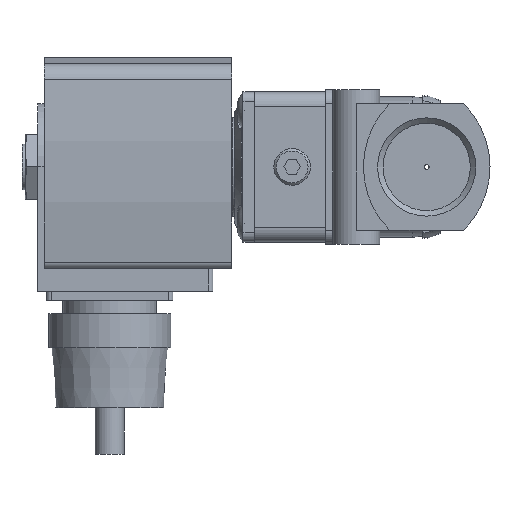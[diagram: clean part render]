
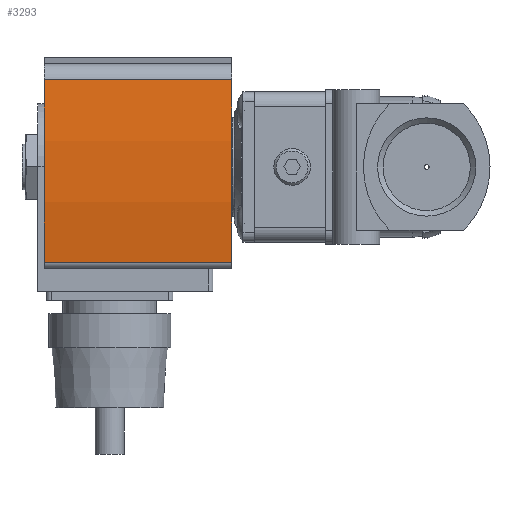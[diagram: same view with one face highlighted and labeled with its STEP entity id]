
A CAD part, left-side view. The second image highlights one B-rep face of the part: STEP entity #3293.
In plain terms, the highlighted cylindrical face has radius 130 mm (diameter 260 mm), a partial arc.
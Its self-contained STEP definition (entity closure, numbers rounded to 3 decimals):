
#110=CYLINDRICAL_SURFACE('',#4064,130.);
#349=LINE('',#6079,#573);
#350=LINE('',#6083,#574);
#573=VECTOR('',#4988,1000.);
#574=VECTOR('',#4993,1000.);
#1333=ORIENTED_EDGE('',*,*,#1899,.T.);
#1334=ORIENTED_EDGE('',*,*,#1900,.F.);
#1335=ORIENTED_EDGE('',*,*,#1888,.F.);
#1336=ORIENTED_EDGE('',*,*,#1898,.T.);
#1888=EDGE_CURVE('',#2239,#2240,#2450,.T.);
#1898=EDGE_CURVE('',#2239,#2246,#349,.T.);
#1899=EDGE_CURVE('',#2246,#2247,#2458,.T.);
#1900=EDGE_CURVE('',#2240,#2247,#350,.T.);
#2239=VERTEX_POINT('',#6059);
#2240=VERTEX_POINT('',#6061);
#2246=VERTEX_POINT('',#6078);
#2247=VERTEX_POINT('',#6082);
#2450=CIRCLE('',#4054,130.);
#2458=CIRCLE('',#4065,130.);
#2698=EDGE_LOOP('',(#1333,#1334,#1335,#1336));
#2964=FACE_BOUND('',#2698,.T.);
#3293=ADVANCED_FACE('',(#2964),#110,.T.);
#4054=AXIS2_PLACEMENT_3D('',#6060,#4966,#4967);
#4064=AXIS2_PLACEMENT_3D('',#6080,#4989,#4990);
#4065=AXIS2_PLACEMENT_3D('',#6081,#4991,#4992);
#4966=DIRECTION('',(0.,1.,0.));
#4967=DIRECTION('',(1.,0.,0.));
#4988=DIRECTION('',(0.,-1.,0.));
#4989=DIRECTION('',(0.,-1.,0.));
#4990=DIRECTION('',(0.,0.,-1.));
#4991=DIRECTION('',(0.,1.,0.));
#4992=DIRECTION('',(1.,0.,0.));
#4993=DIRECTION('',(0.,-1.,0.));
#6059=CARTESIAN_POINT('',(-20.382,14.,18.392));
#6060=CARTESIAN_POINT('',(0.,14.,-110.));
#6061=CARTESIAN_POINT('',(18.639,14.,18.657));
#6078=CARTESIAN_POINT('',(-20.382,-26.,18.392));
#6079=CARTESIAN_POINT('',(-20.382,14.,18.392));
#6080=CARTESIAN_POINT('',(0.,14.,-110.));
#6081=CARTESIAN_POINT('',(0.,-26.,-110.));
#6082=CARTESIAN_POINT('',(18.639,-26.,18.657));
#6083=CARTESIAN_POINT('',(18.639,14.,18.657));
